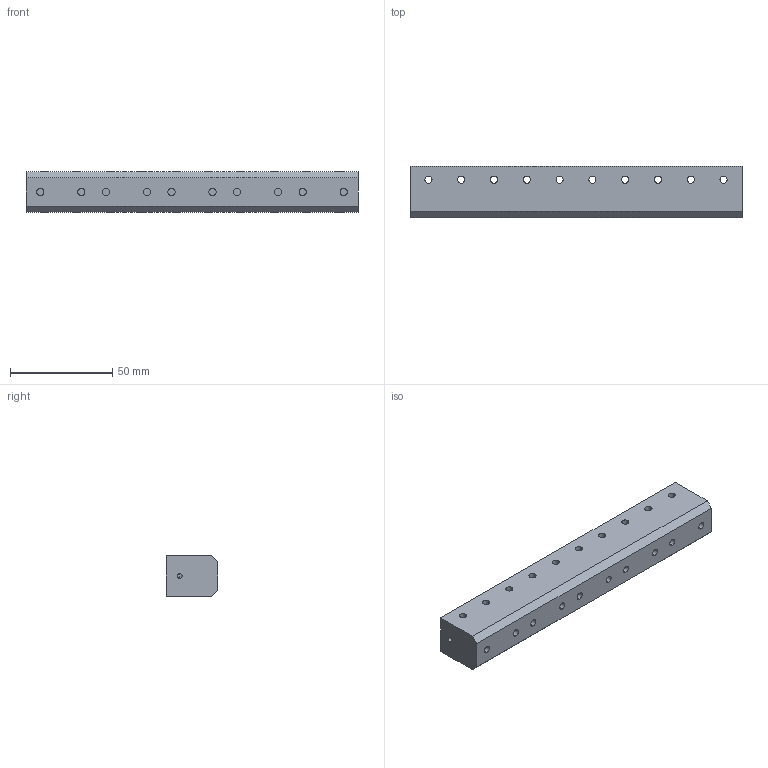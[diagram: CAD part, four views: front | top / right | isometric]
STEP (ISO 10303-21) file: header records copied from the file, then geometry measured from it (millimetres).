
FILE_DESCRIPTION (( 'STEP AP214' ), '1' );
FILE_NAME ('MC600C Heat Block.STEP', '2018-12-06T09:23:06', ( 'Ian Hooper' ), ( '' ), 'SwSTEP 2.0', 'SolidWorks 2010', '' );
FILE_SCHEMA (( 'AUTOMOTIVE_DESIGN' ));
Length unit declared in the file: millimetre
Products named in the file (1): MC600C Heat Block
Bounding box: 162 x 25 x 20 mm (x, y, z)
Volume: 75531.6 mm3; surface area: 19152.8 mm2
Topology: 1 solids, 1 shells, 70 faces, 165 edges, 108 vertices
Faces by surface type: cylinder 46, plane 20, cone 4
Entity records: 2171 total; most frequent: DIRECTION 399, CARTESIAN_POINT 386, ORIENTED_EDGE 330, AXIS2_PLACEMENT_3D 165, EDGE_CURVE 165, VERTEX_POINT 108, EDGE_LOOP 103, CIRCLE 94
